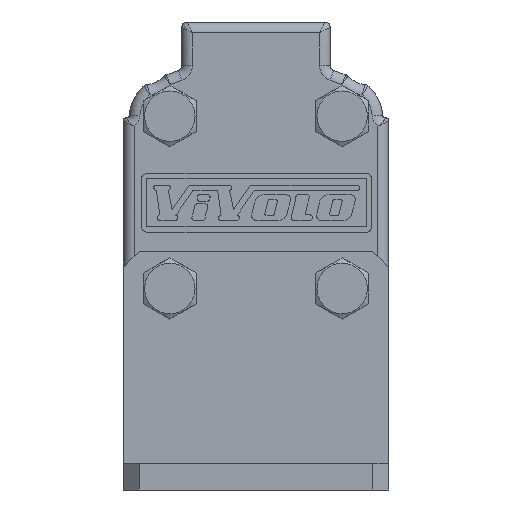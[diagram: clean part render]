
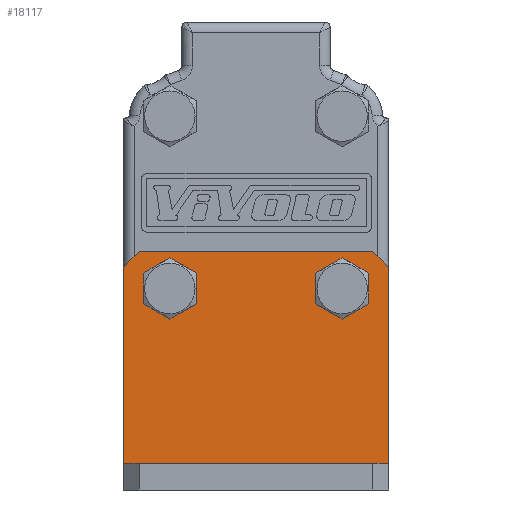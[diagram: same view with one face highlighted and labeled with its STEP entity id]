
A CAD part, front view. The second image highlights one B-rep face of the part: STEP entity #18117.
In plain terms, the highlighted planar face has unit normal (0, -1, 0).
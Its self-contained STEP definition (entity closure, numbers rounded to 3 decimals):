
#675=CIRCLE('',#18973,5.);
#676=CIRCLE('',#18975,5.);
#2217=ORIENTED_EDGE('',*,*,#5566,.T.);
#2218=ORIENTED_EDGE('',*,*,#5616,.T.);
#2219=ORIENTED_EDGE('',*,*,#5617,.T.);
#2220=ORIENTED_EDGE('',*,*,#5618,.F.);
#2221=ORIENTED_EDGE('',*,*,#5602,.F.);
#2222=ORIENTED_EDGE('',*,*,#5619,.T.);
#2223=ORIENTED_EDGE('',*,*,#5620,.T.);
#2224=ORIENTED_EDGE('',*,*,#5565,.T.);
#5565=EDGE_CURVE('',#7349,#7349,#675,.T.);
#5566=EDGE_CURVE('',#7350,#7350,#676,.T.);
#5602=EDGE_CURVE('',#7371,#7372,#8617,.T.);
#5616=EDGE_CURVE('',#7373,#7374,#8619,.T.);
#5617=EDGE_CURVE('',#7374,#7375,#8620,.T.);
#5618=EDGE_CURVE('',#7372,#7375,#8621,.T.);
#5619=EDGE_CURVE('',#7371,#7376,#8622,.T.);
#5620=EDGE_CURVE('',#7376,#7373,#8623,.F.);
#7349=VERTEX_POINT('',#25681);
#7350=VERTEX_POINT('',#25684);
#7371=VERTEX_POINT('',#25756);
#7372=VERTEX_POINT('',#25758);
#7373=VERTEX_POINT('',#25786);
#7374=VERTEX_POINT('',#25787);
#7375=VERTEX_POINT('',#25789);
#7376=VERTEX_POINT('',#25792);
#8617=LINE('',#25757,#9741);
#8619=LINE('',#25785,#9743);
#8620=LINE('',#25788,#9744);
#8621=LINE('',#25790,#9745);
#8622=LINE('',#25791,#9746);
#8623=LINE('',#25793,#9747);
#9741=VECTOR('',#21080,1000.);
#9743=VECTOR('',#21132,1000.);
#9744=VECTOR('',#21133,1000.);
#9745=VECTOR('',#21134,1000.);
#9746=VECTOR('',#21135,1000.);
#9747=VECTOR('',#21136,1000.);
#10739=EDGE_LOOP('',(#2217));
#10740=EDGE_LOOP('',(#2218,#2219,#2220,#2221,#2222,#2223));
#10741=EDGE_LOOP('',(#2224));
#11569=FACE_BOUND('',#10739,.T.);
#11570=FACE_BOUND('',#10740,.T.);
#11571=FACE_BOUND('',#10741,.T.);
#12321=PLANE('',#19020);
#18117=ADVANCED_FACE('',(#11569,#11570,#11571),#12321,.T.);
#18973=AXIS2_PLACEMENT_3D('',#25680,#21003,#21004);
#18975=AXIS2_PLACEMENT_3D('',#25683,#21007,#21008);
#19020=AXIS2_PLACEMENT_3D('',#25784,#21130,#21131);
#21003=DIRECTION('',(0.,1.,0.));
#21004=DIRECTION('',(0.,0.,-1.));
#21007=DIRECTION('',(0.,1.,0.));
#21008=DIRECTION('',(0.,0.,1.));
#21080=DIRECTION('',(-1.,0.,0.));
#21130=DIRECTION('',(0.,-1.,0.));
#21131=DIRECTION('',(0.,0.,1.));
#21132=DIRECTION('',(-1.,0.,0.));
#21133=DIRECTION('',(-0.707,0.,-0.707));
#21134=DIRECTION('',(0.,0.,1.));
#21135=DIRECTION('',(0.,0.,1.));
#21136=DIRECTION('',(0.707,0.,-0.707));
#25680=CARTESIAN_POINT('',(-16.25,-5.,-16.25));
#25681=CARTESIAN_POINT('',(-16.25,-5.,-21.25));
#25683=CARTESIAN_POINT('',(16.25,-5.,-16.25));
#25684=CARTESIAN_POINT('',(16.25,-5.,-11.25));
#25756=CARTESIAN_POINT('',(25.,-5.,-49.25));
#25757=CARTESIAN_POINT('',(25.,-5.,-49.25));
#25758=CARTESIAN_POINT('',(-25.,-5.,-49.25));
#25784=CARTESIAN_POINT('',(25.,-5.,-49.25));
#25785=CARTESIAN_POINT('',(25.,-5.,-9.25));
#25786=CARTESIAN_POINT('',(22.,-5.,-9.25));
#25787=CARTESIAN_POINT('',(-22.,-5.,-9.25));
#25788=CARTESIAN_POINT('',(-18.5,-5.,-5.75));
#25789=CARTESIAN_POINT('',(-25.,-5.,-12.25));
#25790=CARTESIAN_POINT('',(-25.,-5.,-49.25));
#25791=CARTESIAN_POINT('',(25.,-5.,-49.25));
#25792=CARTESIAN_POINT('',(25.,-5.,-12.25));
#25793=CARTESIAN_POINT('',(43.5,-5.,-30.75));
